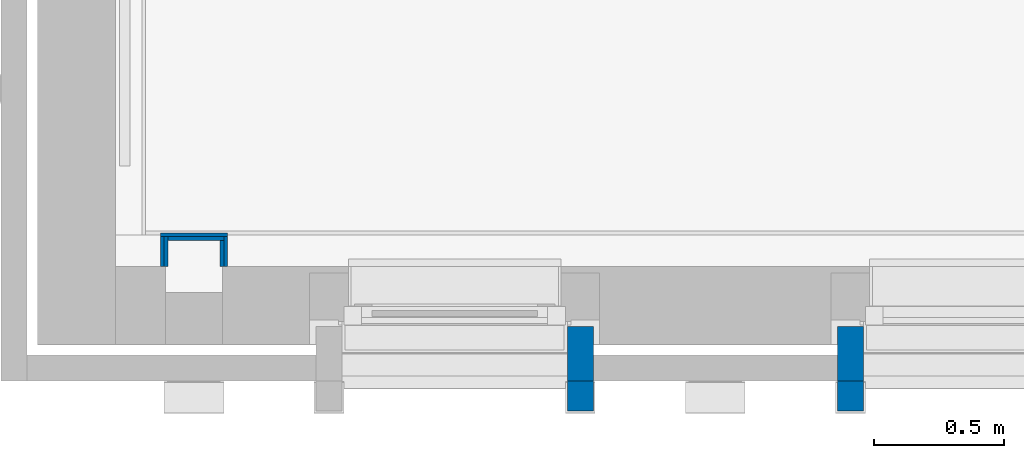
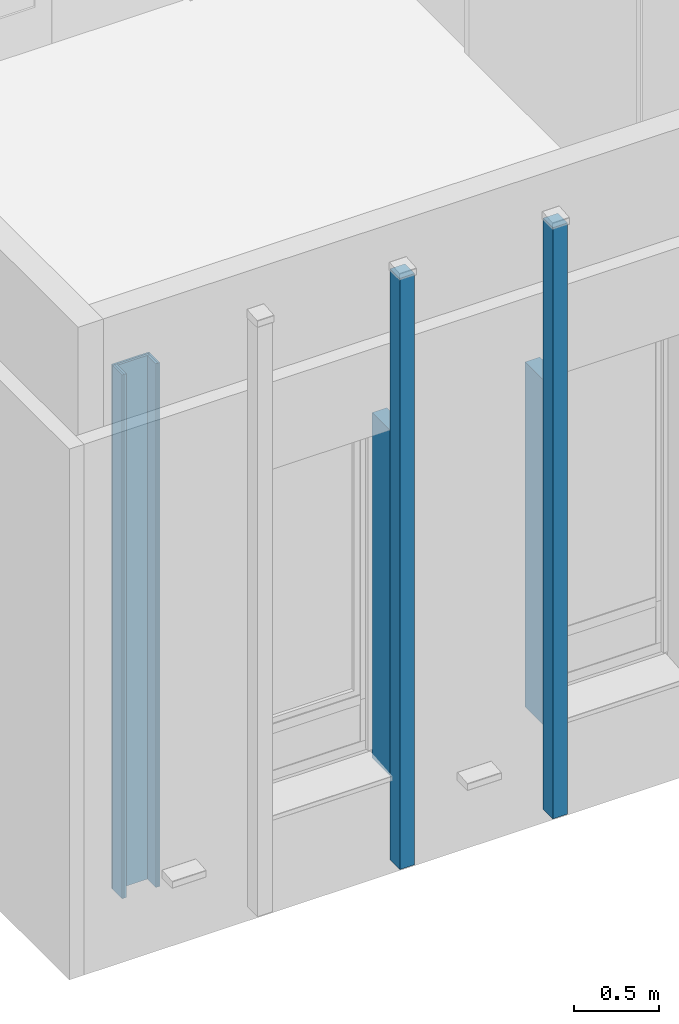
# One storey, part 24 of 118: 10 walls.
"""IFC2X3 building model written with IfcOpenShell, lengths in millimetres."""

from ifc_helpers import new_model, entity, si_unit, converted_unit, derived_unit, direction, frame, frame_2d, origin, place, context, subcontext, project, spatial, rectangle, extrude, material, layer, layer_set, layer_usage, type_object, element, save


model = new_model("IFC2X3")

# Units and contexts
model_context = context("Model", 3, precision=0.01, world=origin(), true_north=direction((6.123031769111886e-17, 1.0)))
plan_context = context("Plan", 3, precision=0.01, world=origin(), true_north=direction((6.123031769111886e-17, 1.0)))
body_context = subcontext(model_context, "Body", "Model", "MODEL_VIEW")
ifc_project = project(units=[si_unit("LENGTHUNIT", "METRE", prefix="MILLI"), si_unit("AREAUNIT", "SQUARE_METRE"), si_unit("VOLUMEUNIT", "CUBIC_METRE"), converted_unit("PLANEANGLEUNIT", "DEGREE", entity("IfcRatioMeasure", 0.017453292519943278), si_unit("PLANEANGLEUNIT", "RADIAN"), dimensions=[0, 0, 0, 0, 0, 0, 0]), si_unit("MASSUNIT", "GRAM", prefix="KILO"), derived_unit("MASSDENSITYUNIT", [(si_unit("MASSUNIT", "GRAM", prefix="KILO"), 1), (si_unit("LENGTHUNIT", "METRE"), -3)]), derived_unit("IONCONCENTRATIONUNIT", [(si_unit("MASSUNIT", "GRAM", prefix="KILO"), 1), (si_unit("LENGTHUNIT", "METRE"), -3)]), derived_unit("MOMENTOFINERTIAUNIT", [(si_unit("LENGTHUNIT", "METRE"), 4)]), si_unit("TIMEUNIT", "SECOND"), si_unit("FREQUENCYUNIT", "HERTZ"), si_unit("THERMODYNAMICTEMPERATUREUNIT", "DEGREE_CELSIUS"), derived_unit("THERMALTRANSMITTANCEUNIT", [(si_unit("MASSUNIT", "GRAM", prefix="KILO"), 1), (si_unit("THERMODYNAMICTEMPERATUREUNIT", "KELVIN"), -1), (si_unit("TIMEUNIT", "SECOND"), -3)]), derived_unit("THERMALCONDUCTANCEUNIT", [(si_unit("MASSUNIT", "GRAM", prefix="KILO"), 1), (si_unit("THERMODYNAMICTEMPERATUREUNIT", "KELVIN"), -1), (si_unit("TIMEUNIT", "SECOND"), -3), (si_unit("LENGTHUNIT", "METRE"), 1)]), derived_unit("VOLUMETRICFLOWRATEUNIT", [(si_unit("LENGTHUNIT", "METRE"), 3), (si_unit("TIMEUNIT", "SECOND"), -1)]), derived_unit("MASSFLOWRATEUNIT", [(si_unit("MASSUNIT", "GRAM", prefix="KILO"), 1), (si_unit("TIMEUNIT", "SECOND"), -1)]), derived_unit("ROTATIONALFREQUENCYUNIT", [(si_unit("TIMEUNIT", "SECOND"), -1)]), si_unit("ELECTRICCURRENTUNIT", "AMPERE"), si_unit("ELECTRICVOLTAGEUNIT", "VOLT"), si_unit("POWERUNIT", "WATT"), si_unit("FORCEUNIT", "NEWTON", prefix="KILO"), si_unit("ILLUMINANCEUNIT", "LUX"), si_unit("LUMINOUSFLUXUNIT", "LUMEN"), si_unit("LUMINOUSINTENSITYUNIT", "CANDELA"), derived_unit("USERDEFINED", [(si_unit("MASSUNIT", "GRAM", prefix="KILO"), -1), (si_unit("LENGTHUNIT", "METRE"), -2), (si_unit("TIMEUNIT", "SECOND"), 3), (si_unit("LUMINOUSFLUXUNIT", "LUMEN"), 1)]), derived_unit("USERDEFINED", [(si_unit("MASSUNIT", "GRAM", prefix="KILO"), 1), (si_unit("TIMEUNIT", "SECOND"), -3), (si_unit("LENGTHUNIT", "METRE"), 3), (si_unit("ELECTRICCURRENTUNIT", "AMPERE"), -2)]), derived_unit("SOUNDPOWERUNIT", [(si_unit("MASSUNIT", "GRAM", prefix="KILO"), 1), (si_unit("TIMEUNIT", "SECOND"), -3), (si_unit("LENGTHUNIT", "METRE"), 2)]), derived_unit("SOUNDPRESSUREUNIT", [(si_unit("MASSUNIT", "GRAM", prefix="KILO"), 1), (si_unit("LENGTHUNIT", "METRE"), -1), (si_unit("TIMEUNIT", "SECOND"), -2)]), derived_unit("LINEARVELOCITYUNIT", [(si_unit("LENGTHUNIT", "METRE"), 1), (si_unit("TIMEUNIT", "SECOND"), -1)]), si_unit("PRESSUREUNIT", "PASCAL"), derived_unit("USERDEFINED", [(si_unit("MASSUNIT", "GRAM", prefix="KILO"), 1), (si_unit("LENGTHUNIT", "METRE"), -2), (si_unit("TIMEUNIT", "SECOND"), -2)]), derived_unit("LINEARFORCEUNIT", [(si_unit("MASSUNIT", "GRAM", prefix="KILO"), 1), (si_unit("TIMEUNIT", "SECOND"), -2)]), derived_unit("PLANARFORCEUNIT", [(si_unit("MASSUNIT", "GRAM", prefix="KILO"), 1), (si_unit("LENGTHUNIT", "METRE"), -1), (si_unit("TIMEUNIT", "SECOND"), -2)]), derived_unit("SPECIFICHEATCAPACITYUNIT", [(si_unit("THERMODYNAMICTEMPERATUREUNIT", "KELVIN"), -1), (si_unit("LENGTHUNIT", "METRE"), 2), (si_unit("TIMEUNIT", "SECOND"), -2)]), derived_unit("HEATINGVALUEUNIT", [(si_unit("LENGTHUNIT", "METRE"), 2), (si_unit("TIMEUNIT", "SECOND"), -2)]), derived_unit("VAPORPERMEABILITYUNIT", [(si_unit("LENGTHUNIT", "METRE"), -1), (si_unit("TIMEUNIT", "SECOND"), 1)]), derived_unit("DYNAMICVISCOSITYUNIT", [(si_unit("MASSUNIT", "GRAM", prefix="KILO"), 1), (si_unit("TIMEUNIT", "SECOND"), -1), (si_unit("LENGTHUNIT", "METRE"), -1)]), derived_unit("THERMALEXPANSIONCOEFFICIENTUNIT", [(si_unit("THERMODYNAMICTEMPERATUREUNIT", "KELVIN"), -1)]), derived_unit("MODULUSOFELASTICITYUNIT", [(si_unit("MASSUNIT", "GRAM", prefix="KILO"), 1), (si_unit("LENGTHUNIT", "METRE"), -1), (si_unit("TIMEUNIT", "SECOND"), -2)]), derived_unit("ISOTHERMALMOISTURECAPACITYUNIT", [(si_unit("LENGTHUNIT", "METRE"), 3), (si_unit("MASSUNIT", "GRAM", prefix="KILO"), -1)]), derived_unit("MOISTUREDIFFUSIVITYUNIT", [(si_unit("TIMEUNIT", "SECOND"), -1), (si_unit("LENGTHUNIT", "METRE"), 2)])], contexts=[model_context, plan_context])

# Site, building, storey
site_placement = place(None, origin())
site = spatial("IfcSite", under=ifc_project, at=site_placement, Name="Locatie", CompositionType="ELEMENT")
building_placement = place(site_placement, origin())
building = spatial("IfcBuilding", under=site, at=building_placement, Name="Bouwwerk", CompositionType="ELEMENT")
storey_placement = place(building_placement, frame((0.0, 0.0, 7800.0)))
storey = spatial("IfcBuildingStorey", under=building, at=storey_placement, Name="02 tweede verdieping", CompositionType="ELEMENT", Elevation=7800.000000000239)

# Walls
ifc_material_1 = material(Name="g2_metselwerk_geel licht")
ifc_layer_1 = layer(ifc_material_1, 100.0)
ifc_layer_set_1 = layer_set([ifc_layer_1], Name="Basic Wall:21_WA_metselwerk_licht_100_gen_bdg")
ifc_layer_usage_1 = layer_usage(ifc_layer_set_1, "AXIS2", "NEGATIVE", 50.0)
wall_type_1 = type_object("IfcWallType", Name="Basic Wall:21_WA_metselwerk_licht_100_gen_bdg", PredefinedType="STANDARD", material=ifc_layer_set_1)
wall_1_placement = place(storey_placement, frame((12818.0, 9770.0, 603.0), z_axis=(0.0, 0.0, 1.0), x_axis=(0.0, -1.0, 0.0)))
element("IfcWallStandardCase", 1, at=wall_1_placement, inside=storey, type_object=wall_type_1, material=ifc_layer_usage_1, Name="Basic Wall:21_WA_metselwerk_licht_100_gen_bdg", ObjectType="Basic Wall:21_WA_metselwerk_licht_100_gen_bdg", context=body_context, shape_type="SweptSolid", body=[
    extrude(rectangle(XDim=210.00000000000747, YDim=99.99999999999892, at=frame_2d((105.00000000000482, 9.130474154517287e-13), x_axis=(-1.0, 0.0))), origin(), (0.0, 0.0, 1.0), 2471.999999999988),
])
wall_2_placement = place(storey_placement, frame((12818.0, 9560.0, 0.0), z_axis=(0.0, 0.0, 1.0), x_axis=(0.0, -1.0, 0.0)))
element("IfcWallStandardCase", 2, at=wall_2_placement, inside=storey, type_object=wall_type_1, material=ifc_layer_usage_1, Name="Basic Wall:21_WA_metselwerk_licht_100_gen_bdg", ObjectType="Basic Wall:21_WA_metselwerk_licht_100_gen_bdg", context=body_context, shape_type="SweptSolid", body=[
    extrude(rectangle(XDim=115.00000000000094, YDim=99.99999999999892, at=frame_2d((57.50000000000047, 3.730349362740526e-13), x_axis=(-1.0, 0.0))), origin(), (0.0, 0.0, 1.0), 4232.000000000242),
])
ifc_layer_usage_2 = layer_usage(ifc_layer_set_1, "AXIS2", "POSITIVE", -50.0)
wall_3_placement = place(storey_placement, frame((11782.0, 9770.0, 603.0), z_axis=(0.0, 0.0, 1.0), x_axis=(0.0, -1.0, 0.0)))
element("IfcWallStandardCase", 3, at=wall_3_placement, inside=storey, type_object=wall_type_1, material=ifc_layer_usage_2, Name="Basic Wall:21_WA_metselwerk_licht_100_gen_bdg", ObjectType="Basic Wall:21_WA_metselwerk_licht_100_gen_bdg", context=body_context, shape_type="SweptSolid", body=[
    extrude(rectangle(XDim=210.00000000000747, YDim=99.99999999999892, at=frame_2d((105.00000000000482, 2.3447910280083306e-13), x_axis=(-1.0, 0.0))), origin(), (0.0, 0.0, 1.0), 2471.999999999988),
])
wall_4_placement = place(storey_placement, frame((11782.0, 9560.0, 0.0), z_axis=(0.0, 0.0, 1.0), x_axis=(0.0, -1.0, 0.0)))
element("IfcWallStandardCase", 4, at=wall_4_placement, inside=storey, type_object=wall_type_1, material=ifc_layer_usage_2, Name="Basic Wall:21_WA_metselwerk_licht_100_gen_bdg", ObjectType="Basic Wall:21_WA_metselwerk_licht_100_gen_bdg", context=body_context, shape_type="SweptSolid", body=[
    extrude(rectangle(XDim=115.00000000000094, YDim=99.99999999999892, at=frame_2d((57.50000000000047, 3.730349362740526e-13), x_axis=(-1.0, 0.0))), origin(), (0.0, 0.0, 1.0), 4231.99999999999),
])
ifc_material_2 = material(Name="f7_gipsvezel")
ifc_layer_2 = layer(ifc_material_2, 13.000000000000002)
ifc_layer_set_2 = layer_set([ifc_layer_2], Name="Basic Wall:NLRS_41_WA_gips 13_gen_ISR")
ifc_layer_usage_3 = layer_usage(ifc_layer_set_2, "AXIS2", "NEGATIVE", 6.500000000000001)
wall_type_2 = type_object("IfcWallType", Name="Basic Wall:NLRS_41_WA_gips 13_gen_ISR", PredefinedType="STANDARD", material=ifc_layer_set_2)
wall_5_placement = place(storey_placement, frame((10172.0, 10121.500000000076, 0.0)))
element("IfcWallStandardCase", 5, at=wall_5_placement, inside=storey, type_object=wall_type_2, material=ifc_layer_usage_3, Name="Basic Wall:NLRS_41_WA_gips 13_gen_ISR", ObjectType="Basic Wall:NLRS_41_WA_gips 13_gen_ISR", context=body_context, shape_type="SweptSolid", body=[
    extrude(rectangle(XDim=255.99999999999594, YDim=13.000000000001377, at=frame_2d((127.99999999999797, 0.0), x_axis=(-1.0, 0.0))), origin(), (0.0, 0.0, 1.0), 3750.000000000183),
])
wall_6_placement = place(storey_placement, frame((10421.499999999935, 10115.0, 0.0), z_axis=(0.0, 0.0, 1.0), x_axis=(0.0, -1.0, 0.0)))
element("IfcWallStandardCase", 6, at=wall_6_placement, inside=storey, type_object=wall_type_2, material=ifc_layer_usage_3, Name="Basic Wall:NLRS_41_WA_gips 13_gen_ISR", ObjectType="Basic Wall:NLRS_41_WA_gips 13_gen_ISR", context=body_context, shape_type="SweptSolid", body=[
    extrude(rectangle(XDim=115.00000000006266, YDim=13.000000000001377, at=frame_2d((57.50000000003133, 0.0), x_axis=(-1.0, 0.0))), origin(), (0.0, 0.0, 1.0), 3750.000000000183),
])
ifc_layer_usage_4 = layer_usage(ifc_layer_set_2, "AXIS2", "POSITIVE", -6.500000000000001)
wall_7_placement = place(storey_placement, frame((10178.499999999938, 10115.0, 0.0), z_axis=(0.0, 0.0, 1.0), x_axis=(0.0, -1.0, 0.0)))
element("IfcWallStandardCase", 7, at=wall_7_placement, inside=storey, type_object=wall_type_2, material=ifc_layer_usage_4, Name="Basic Wall:NLRS_41_WA_gips 13_gen_ISR", ObjectType="Basic Wall:NLRS_41_WA_gips 13_gen_ISR", context=body_context, shape_type="SweptSolid", body=[
    extrude(rectangle(XDim=115.00000000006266, YDim=13.000000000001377, at=frame_2d((57.50000000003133, 0.0), x_axis=(-1.0, 0.0))), origin(), (0.0, 0.0, 1.0), 3750.000000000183),
])
ifc_material_3 = material(Name="ISR_brandwerende beplating")
ifc_layer_3 = layer(ifc_material_3, 15.0)
ifc_layer_set_3 = layer_set([ifc_layer_3], Name="Basic Wall:NLRS_41_WA_brandwerende beplating 15_gen_ISR")
ifc_layer_usage_5 = layer_usage(ifc_layer_set_3, "AXIS2", "NEGATIVE", 7.5)
wall_type_3 = type_object("IfcWallType", Name="Basic Wall:NLRS_41_WA_brandwerende beplating 15_gen_ISR", PredefinedType="STANDARD", material=ifc_layer_set_3)
wall_8_placement = place(storey_placement, frame((10192.49999999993, 10000.0, 0.0), z_axis=(0.0, 0.0, 1.0), x_axis=(0.0, 1.0, 0.0)))
element("IfcWallStandardCase", 8, at=wall_8_placement, inside=storey, type_object=wall_type_3, material=ifc_layer_usage_5, Name="Basic Wall:NLRS_41_WA_brandwerende beplating 15_gen_ISR", ObjectType="Basic Wall:NLRS_41_WA_brandwerende beplating 15_gen_ISR", context=body_context, shape_type="SweptSolid", body=[
    extrude(rectangle(XDim=114.99999999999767, YDim=15.000000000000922, at=frame_2d((57.499999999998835, 3.388400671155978e-13), x_axis=(-1.0, 0.0))), origin(), (0.0, 0.0, 1.0), 3750.000000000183),
])
wall_9_placement = place(storey_placement, frame((10200.0, 10107.500000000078, 0.0)))
element("IfcWallStandardCase", 9, at=wall_9_placement, inside=storey, type_object=wall_type_3, material=ifc_layer_usage_5, Name="Basic Wall:NLRS_41_WA_brandwerende beplating 15_gen_ISR", ObjectType="Basic Wall:NLRS_41_WA_brandwerende beplating 15_gen_ISR", context=body_context, shape_type="SweptSolid", body=[
    extrude(rectangle(XDim=215.00000000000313, YDim=15.000000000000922, at=frame_2d((107.50000000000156, -4.489741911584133e-13), x_axis=(-1.0, 0.0))), origin(), (0.0, 0.0, 1.0), 3750.000000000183),
])
wall_10_placement = place(storey_placement, frame((10407.499999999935, 10100.0, 0.0), z_axis=(0.0, 0.0, 1.0), x_axis=(0.0, -1.0, 0.0)))
element("IfcWallStandardCase", 10, at=wall_10_placement, inside=storey, type_object=wall_type_3, material=ifc_layer_usage_5, Name="Basic Wall:NLRS_41_WA_brandwerende beplating 15_gen_ISR", ObjectType="Basic Wall:NLRS_41_WA_brandwerende beplating 15_gen_ISR", context=body_context, shape_type="SweptSolid", body=[
    extrude(rectangle(XDim=99.99999999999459, YDim=15.00000000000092, at=frame_2d((49.99999999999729, 2.948752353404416e-13), x_axis=(-1.0, 0.0))), origin(), (0.0, 0.0, 1.0), 3750.000000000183),
])

save(model, "model.ifc")
